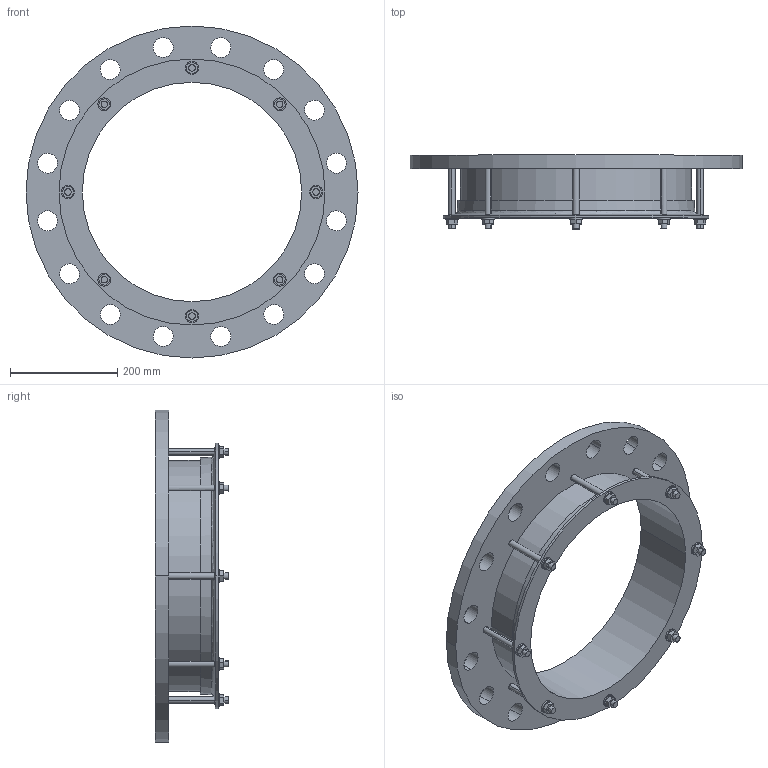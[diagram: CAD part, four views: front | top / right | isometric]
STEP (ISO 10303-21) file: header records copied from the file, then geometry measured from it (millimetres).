
FILE_DESCRIPTION((''),'2;1');
FILE_NAME('406X400PN25','2019-04-04T',('mfairey'),('Glynwed Pipe Systems'),'CREO PARAMETRIC BY PTC INC, 2016130','CREO PARAMETRIC BY PTC INC, 2016130','');
FILE_SCHEMA(('CONFIG_CONTROL_DESIGN'));
Length unit declared in the file: millimetre
Products named in the file (1): 406X400PN25
Bounding box: 620 x 137.45 x 620 mm (x, y, z)
Volume: 5813457.4 mm3; surface area: 798484.5 mm2
Topology: 1 solids, 1 shells, 170 faces, 446 edges, 296 vertices
Faces by surface type: cylinder 88, plane 76, cone 4, torus 2
Entity records: 5842 total; most frequent: CARTESIAN_POINT 1396, DIRECTION 924, ORIENTED_EDGE 892, EDGE_CURVE 446, AXIS2_PLACEMENT_3D 344, VERTEX_POINT 296, EDGE_LOOP 238, VECTOR 236
